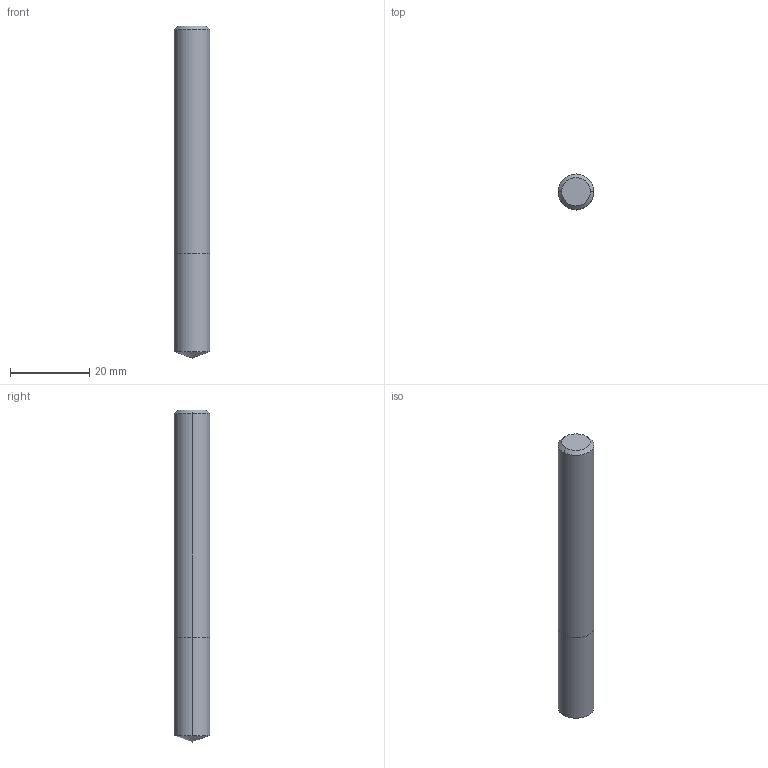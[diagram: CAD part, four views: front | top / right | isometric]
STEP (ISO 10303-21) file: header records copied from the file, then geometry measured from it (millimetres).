
FILE_DESCRIPTION (( 'STEP AP214' ), '1' );
FILE_NAME ('303.090.00_3D-model.step', '2022-02-19T16:04:46', ( '' ), ( '' ), 'SwSTEP 2.0', 'SolidWorks 2020', '' );
FILE_SCHEMA (( 'AUTOMOTIVE_DESIGN' ));
Length unit declared in the file: millimetre
Products named in the file (3): 303.090.00_3D-model; NOCUT-3D^Baugr61; CUT-3D^Baugr61
Assembly tree (2 placements, depth 2):
  303.090.00_3D-model
    CUT-3D^Baugr61
    NOCUT-3D^Baugr61
Bounding box: 9 x 9 x 84 mm (x, y, z)
Volume: 5263.7 mm3; surface area: 2571.3 mm2
Topology: 2 solids, 2 shells, 11 faces, 20 edges, 11 vertices
Faces by surface type: cone 4, cylinder 4, plane 3
Entity records: 380 total; most frequent: DIRECTION 66, CARTESIAN_POINT 48, ORIENTED_EDGE 36, AXIS2_PLACEMENT_3D 29, EDGE_CURVE 18, EDGE_LOOP 11, FACE_OUTER_BOUND 11, ADVANCED_FACE 11
